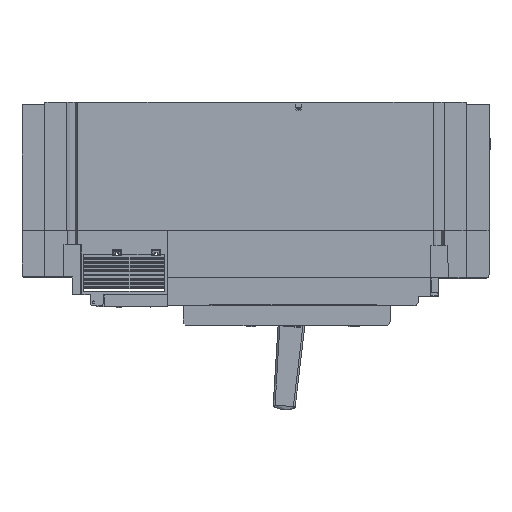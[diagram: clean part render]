
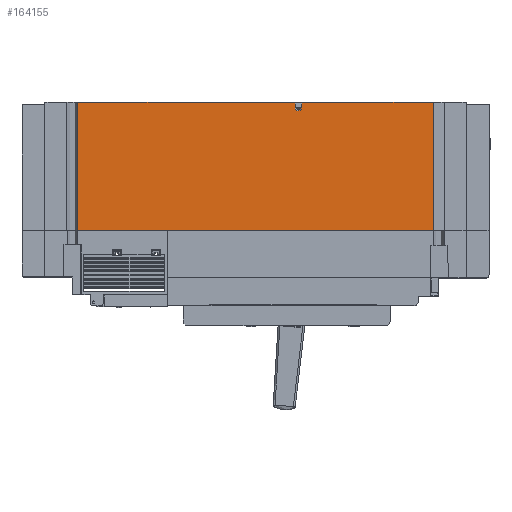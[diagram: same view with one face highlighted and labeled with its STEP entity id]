
A CAD part, top view. The second image highlights one B-rep face of the part: STEP entity #164155.
In plain terms, the highlighted planar face has unit normal (0, 0, 1).
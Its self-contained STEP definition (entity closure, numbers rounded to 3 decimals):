
#9849 = ORIENTED_EDGE ( 'NONE', *, *, #133335, .F. ) ;
#9856 = ORIENTED_EDGE ( 'NONE', *, *, #34962, .F. ) ;
#9878 = ORIENTED_EDGE ( 'NONE', *, *, #34822, .F. ) ;
#9900 = ORIENTED_EDGE ( 'NONE', *, *, #134439, .F. ) ;
#9930 = ORIENTED_EDGE ( 'NONE', *, *, #34100, .F. ) ;
#9956 = ORIENTED_EDGE ( 'NONE', *, *, #32246, .F. ) ;
#9960 = ORIENTED_EDGE ( 'NONE', *, *, #33146, .F. ) ;
#9963 = ORIENTED_EDGE ( 'NONE', *, *, #31392, .F. ) ;
#9983 = ORIENTED_EDGE ( 'NONE', *, *, #133860, .F. ) ;
#10009 = ORIENTED_EDGE ( 'NONE', *, *, #131836, .F. ) ;
#10011 = ORIENTED_EDGE ( 'NONE', *, *, #35477, .F. ) ;
#21278 = VECTOR ( 'NONE', #145089, 1000. ) ;
#21489 = LINE ( 'NONE', #145090, #21278 ) ;
#22111 = CIRCLE ( 'NONE', #98871, 1.75 ) ;
#22304 = CARTESIAN_POINT ( 'NONE',  ( 25.204, 69.761, 69.8 ) ) ;
#22415 = CARTESIAN_POINT ( 'NONE',  ( 25.15, 69.5, 69.8 ) ) ;
#22950 = CARTESIAN_POINT ( 'NONE',  ( 25.389, 69.946, 69.8 ) ) ;
#23432 = CARTESIAN_POINT ( 'NONE',  ( 25.15, 69.631, 69.8 ) ) ;
#23465 = CARTESIAN_POINT ( 'NONE',  ( 25.519, 70., 69.8 ) ) ;
#23523 = CARTESIAN_POINT ( 'NONE',  ( 25.65, 70., 69.8 ) ) ;
#23983 = VECTOR ( 'NONE', #99660, 1000. ) ;
#24385 = LINE ( 'NONE', #142808, #24387 ) ;
#24387 = VECTOR ( 'NONE', #141909, 1000. ) ;
#24529 = LINE ( 'NONE', #99603, #23983 ) ;
#24999 = CIRCLE ( 'NONE', #99183, 0.5 ) ;
#26709 = VECTOR ( 'NONE', #70903, 1000. ) ;
#27061 = VECTOR ( 'NONE', #85833, 1000. ) ;
#27480 = LINE ( 'NONE', #85840, #27061 ) ;
#27561 = LINE ( 'NONE', #70908, #26709 ) ;
#31392 = EDGE_CURVE ( 'NONE', #97293, #96359, #22111, .T. ) ;
#32246 = EDGE_CURVE ( 'NONE', #88943, #89016, #21489, .T. ) ;
#33105 = VECTOR ( 'NONE', #95901, 1000. ) ;
#33132 = LINE ( 'NONE', #95697, #33105 ) ;
#33146 = EDGE_CURVE ( 'NONE', #96473, #96233, #27480, .T. ) ;
#34100 = EDGE_CURVE ( 'NONE', #88945, #88943, #27561, .T. ) ;
#34782 = DIRECTION ( 'NONE',  ( 0., 1., 0. ) ) ;
#34786 = DIRECTION ( 'NONE',  ( 0., 0., -1. ) ) ;
#34794 = PLANE ( 'NONE',  #94804 ) ;
#34822 = EDGE_CURVE ( 'NONE', #88922, #96473, #24529, .T. ) ;
#34845 = CARTESIAN_POINT ( 'NONE',  ( -97., 0., 69.8 ) ) ;
#34962 = EDGE_CURVE ( 'NONE', #96233, #89037, #24999, .T. ) ;
#35009 = CIRCLE ( 'NONE', #98262, 1.75 ) ;
#35477 = EDGE_CURVE ( 'NONE', #89037, #88898, #24385, .T. ) ;
#39546 = B_SPLINE_CURVE_WITH_KNOTS ( 'NONE', 3,
 ( #22415, #23432, #22304, #22950, #23465, #23523 ),
 .UNSPECIFIED., .F., .F.,
 ( 4, 2, 4 ),
 ( 0., 0.5, 1. ),
 .UNSPECIFIED. ) ;
#47346 = FACE_OUTER_BOUND ( 'NONE', #79810, .T. ) ;
#62362 = CARTESIAN_POINT ( 'NONE',  ( 23.4, 67., 69.8 ) ) ;
#62365 = DIRECTION ( 'NONE',  ( 0., 0., 1. ) ) ;
#62378 = DIRECTION ( 'NONE',  ( 0., -1., 0. ) ) ;
#65311 = DIRECTION ( 'NONE',  ( 0., 1., 0. ) ) ;
#65314 = CARTESIAN_POINT ( 'NONE',  ( 25.15, 0., 69.8 ) ) ;
#67341 = DIRECTION ( 'NONE',  ( 0., -1., 0. ) ) ;
#67348 = DIRECTION ( 'NONE',  ( 0., 0., 1. ) ) ;
#67350 = CARTESIAN_POINT ( 'NONE',  ( 23.4, 67., 69.8 ) ) ;
#70903 = DIRECTION ( 'NONE',  ( 1., 0., 0. ) ) ;
#70908 = CARTESIAN_POINT ( 'NONE',  ( -97., 70., 69.8 ) ) ;
#79810 = EDGE_LOOP ( 'NONE', ( #9856, #9960, #9878, #9849, #9956, #9930, #9983, #9900, #9963, #10009, #10011 ) ) ;
#85833 = DIRECTION ( 'NONE',  ( 1., 0., 0. ) ) ;
#85840 = CARTESIAN_POINT ( 'NONE',  ( 100., 70., 69.8 ) ) ;
#88898 = VERTEX_POINT ( 'NONE', #164061 ) ;
#88922 = VERTEX_POINT ( 'NONE', #164037 ) ;
#88943 = VERTEX_POINT ( 'NONE', #164031 ) ;
#88945 = VERTEX_POINT ( 'NONE', #164025 ) ;
#89016 = VERTEX_POINT ( 'NONE', #164008 ) ;
#89037 = VERTEX_POINT ( 'NONE', #164017 ) ;
#89088 = VERTEX_POINT ( 'NONE', #164033 ) ;
#94804 = AXIS2_PLACEMENT_3D ( 'NONE', #34845, #34786, #34782 ) ;
#95697 = CARTESIAN_POINT ( 'NONE',  ( -97., 0., 69.8 ) ) ;
#95901 = DIRECTION ( 'NONE',  ( -1., 0., 0. ) ) ;
#96233 = VERTEX_POINT ( 'NONE', #155310 ) ;
#96359 = VERTEX_POINT ( 'NONE', #155235 ) ;
#96473 = VERTEX_POINT ( 'NONE', #155121 ) ;
#97293 = VERTEX_POINT ( 'NONE', #139646 ) ;
#98262 = AXIS2_PLACEMENT_3D ( 'NONE', #62362, #62365, #62378 ) ;
#98871 = AXIS2_PLACEMENT_3D ( 'NONE', #67350, #67348, #67341 ) ;
#99183 = AXIS2_PLACEMENT_3D ( 'NONE', #153493, #153491, #153485 ) ;
#99603 = CARTESIAN_POINT ( 'NONE',  ( -97., 0., 69.8 ) ) ;
#99660 = DIRECTION ( 'NONE',  ( 0., 1., 0. ) ) ;
#109622 = LINE ( 'NONE', #65314, #109692 ) ;
#109692 = VECTOR ( 'NONE', #65311, 1000. ) ;
#131836 = EDGE_CURVE ( 'NONE', #88898, #97293, #35009, .T. ) ;
#133335 = EDGE_CURVE ( 'NONE', #89016, #88922, #33132, .T. ) ;
#133860 = EDGE_CURVE ( 'NONE', #89088, #88945, #39546, .T. ) ;
#134439 = EDGE_CURVE ( 'NONE', #96359, #89088, #109622, .T. ) ;
#139646 = CARTESIAN_POINT ( 'NONE',  ( 23.4, 65.25, 69.8 ) ) ;
#141909 = DIRECTION ( 'NONE',  ( 0., -1., 0. ) ) ;
#142808 = CARTESIAN_POINT ( 'NONE',  ( 21.65, 0., 69.8 ) ) ;
#145089 = DIRECTION ( 'NONE',  ( 0., -1., 0. ) ) ;
#145090 = CARTESIAN_POINT ( 'NONE',  ( 97., 0., 69.8 ) ) ;
#153485 = DIRECTION ( 'NONE',  ( 0., 1., 0. ) ) ;
#153491 = DIRECTION ( 'NONE',  ( 0., 0., -1. ) ) ;
#153493 = CARTESIAN_POINT ( 'NONE',  ( 21.15, 69.5, 69.8 ) ) ;
#155121 = CARTESIAN_POINT ( 'NONE',  ( -97., 70., 69.8 ) ) ;
#155235 = CARTESIAN_POINT ( 'NONE',  ( 25.15, 67., 69.8 ) ) ;
#155310 = CARTESIAN_POINT ( 'NONE',  ( 21.15, 70., 69.8 ) ) ;
#164008 = CARTESIAN_POINT ( 'NONE',  ( 97., 0., 69.8 ) ) ;
#164017 = CARTESIAN_POINT ( 'NONE',  ( 21.65, 69.5, 69.8 ) ) ;
#164025 = CARTESIAN_POINT ( 'NONE',  ( 25.65, 70., 69.8 ) ) ;
#164031 = CARTESIAN_POINT ( 'NONE',  ( 97., 70., 69.8 ) ) ;
#164033 = CARTESIAN_POINT ( 'NONE',  ( 25.15, 69.5, 69.8 ) ) ;
#164037 = CARTESIAN_POINT ( 'NONE',  ( -97., 0., 69.8 ) ) ;
#164061 = CARTESIAN_POINT ( 'NONE',  ( 21.65, 67., 69.8 ) ) ;
#164155 = ADVANCED_FACE ( 'NONE', ( #47346 ), #34794, .F. ) ;
